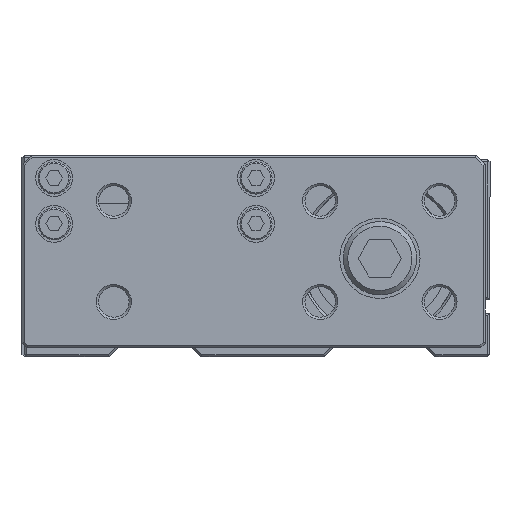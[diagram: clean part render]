
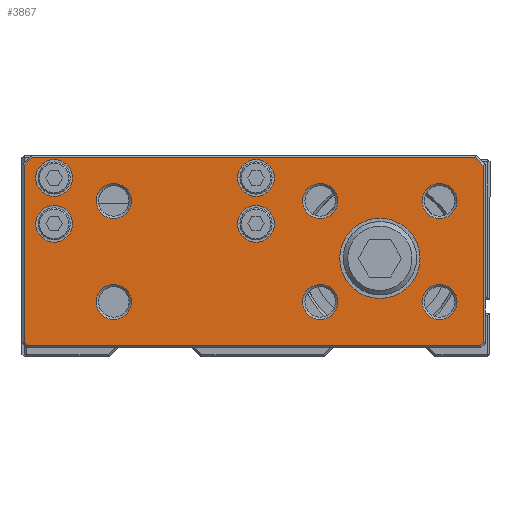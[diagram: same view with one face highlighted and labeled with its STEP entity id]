
A CAD part, front view. The second image highlights one B-rep face of the part: STEP entity #3867.
In plain terms, the highlighted planar face has unit normal (0, -1, 0).
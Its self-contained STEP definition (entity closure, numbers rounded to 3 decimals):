
#3671=CARTESIAN_POINT('',(-9.176,-17.8,12.5));
#3672=VERTEX_POINT('',#3671);
#3673=CARTESIAN_POINT('',(-13.,-17.8,12.5));
#3674=DIRECTION('',(0.0,-1.0,0.0));
#3675=DIRECTION('',(-1.0,0.0,0.0));
#3676=AXIS2_PLACEMENT_3D('',#3673,#3674,#3675);
#3677=CIRCLE('',#3676,3.824);
#3678=EDGE_CURVE('',#3672,#3672,#3677,.T.);
#3683=CARTESIAN_POINT('',(-78.0,-17.8,22.5));
#3684=DIRECTION('',(0.0,-1.0,0.0));
#3685=DIRECTION('',(0.0,0.0,-1.0));
#3686=AXIS2_PLACEMENT_3D('',#3683,#3684,#3685);
#3687=PLANE('',#3686);
#3688=CARTESIAN_POINT('',(22.5,-17.8,20.293));
#3689=VERTEX_POINT('',#3688);
#3690=CARTESIAN_POINT('',(22.5,-17.8,-18.293));
#3691=VERTEX_POINT('',#3690);
#3692=CARTESIAN_POINT('',(22.5,-17.8,20.293));
#3693=DIRECTION('',(0.0,0.0,-1.0));
#3694=VECTOR('',#3693,38.586);
#3695=LINE('',#3692,#3694);
#3696=EDGE_CURVE('',#3689,#3691,#3695,.T.);
#3697=ORIENTED_EDGE('',*,*,#3696,.F.);
#3698=CARTESIAN_POINT('',(20.793,-17.8,22.0));
#3699=VERTEX_POINT('',#3698);
#3700=CARTESIAN_POINT('',(20.793,-17.8,22.0));
#3701=DIRECTION('',(0.707,0.0,-0.707));
#3702=VECTOR('',#3701,2.414);
#3703=LINE('',#3700,#3702);
#3704=EDGE_CURVE('',#3699,#3689,#3703,.T.);
#3705=ORIENTED_EDGE('',*,*,#3704,.F.);
#3706=CARTESIAN_POINT('',(-75.793,-17.8,22.0));
#3707=VERTEX_POINT('',#3706);
#3708=CARTESIAN_POINT('',(-75.793,-17.8,22.0));
#3709=DIRECTION('',(1.0,0.0,0.0));
#3710=VECTOR('',#3709,96.586);
#3711=LINE('',#3708,#3710);
#3712=EDGE_CURVE('',#3707,#3699,#3711,.T.);
#3713=ORIENTED_EDGE('',*,*,#3712,.F.);
#3714=CARTESIAN_POINT('',(-77.5,-17.8,20.293));
#3715=VERTEX_POINT('',#3714);
#3716=CARTESIAN_POINT('',(-77.5,-17.8,20.293));
#3717=DIRECTION('',(0.707,0.0,0.707));
#3718=VECTOR('',#3717,2.414);
#3719=LINE('',#3716,#3718);
#3720=EDGE_CURVE('',#3715,#3707,#3719,.T.);
#3721=ORIENTED_EDGE('',*,*,#3720,.F.);
#3722=CARTESIAN_POINT('',(-77.5,-17.8,-18.293));
#3723=VERTEX_POINT('',#3722);
#3724=CARTESIAN_POINT('',(-77.5,-17.8,-18.293));
#3725=DIRECTION('',(0.0,0.0,1.0));
#3726=VECTOR('',#3725,38.586);
#3727=LINE('',#3724,#3726);
#3728=EDGE_CURVE('',#3723,#3715,#3727,.T.);
#3729=ORIENTED_EDGE('',*,*,#3728,.F.);
#3730=CARTESIAN_POINT('',(-76.793,-17.8,-19.));
#3731=VERTEX_POINT('',#3730);
#3732=CARTESIAN_POINT('',(-76.793,-17.8,-19.));
#3733=DIRECTION('',(-0.707,0.0,0.707));
#3734=VECTOR('',#3733,1.);
#3735=LINE('',#3732,#3734);
#3736=EDGE_CURVE('',#3731,#3723,#3735,.T.);
#3737=ORIENTED_EDGE('',*,*,#3736,.F.);
#3738=CARTESIAN_POINT('',(21.793,-17.8,-19.));
#3739=VERTEX_POINT('',#3738);
#3740=CARTESIAN_POINT('',(21.793,-17.8,-19.));
#3741=DIRECTION('',(-1.0,0.0,0.0));
#3742=VECTOR('',#3741,98.586);
#3743=LINE('',#3740,#3742);
#3744=EDGE_CURVE('',#3739,#3731,#3743,.T.);
#3745=ORIENTED_EDGE('',*,*,#3744,.F.);
#3746=CARTESIAN_POINT('',(22.5,-17.8,-18.293));
#3747=DIRECTION('',(-0.707,0.0,-0.707));
#3748=VECTOR('',#3747,1.);
#3749=LINE('',#3746,#3748);
#3750=EDGE_CURVE('',#3691,#3739,#3749,.T.);
#3751=ORIENTED_EDGE('',*,*,#3750,.F.);
#3752=EDGE_LOOP('',(#3697,#3705,#3713,#3721,#3729,#3737,#3745,#3751));
#3753=FACE_OUTER_BOUND('',#3752,.T.);
#3754=CARTESIAN_POINT('',(-9.176,-17.8,-9.5));
#3755=VERTEX_POINT('',#3754);
#3756=CARTESIAN_POINT('',(-13.,-17.8,-9.5));
#3757=DIRECTION('',(0.0,-1.0,0.0));
#3758=DIRECTION('',(-1.0,0.0,0.0));
#3759=AXIS2_PLACEMENT_3D('',#3756,#3757,#3758);
#3760=CIRCLE('',#3759,3.824);
#3761=EDGE_CURVE('',#3755,#3755,#3760,.T.);
#3762=ORIENTED_EDGE('',*,*,#3761,.F.);
#3763=EDGE_LOOP('',(#3762));
#3764=FACE_BOUND('',#3763,.T.);
#3765=CARTESIAN_POINT('',(16.824,-17.8,-9.5));
#3766=VERTEX_POINT('',#3765);
#3767=CARTESIAN_POINT('',(13.,-17.8,-9.5));
#3768=DIRECTION('',(0.0,-1.0,0.0));
#3769=DIRECTION('',(-1.0,0.0,0.0));
#3770=AXIS2_PLACEMENT_3D('',#3767,#3768,#3769);
#3771=CIRCLE('',#3770,3.824);
#3772=EDGE_CURVE('',#3766,#3766,#3771,.T.);
#3773=ORIENTED_EDGE('',*,*,#3772,.F.);
#3774=EDGE_LOOP('',(#3773));
#3775=FACE_BOUND('',#3774,.T.);
#3776=CARTESIAN_POINT('',(16.824,-17.8,12.5));
#3777=VERTEX_POINT('',#3776);
#3778=CARTESIAN_POINT('',(13.,-17.8,12.5));
#3779=DIRECTION('',(0.0,-1.0,0.0));
#3780=DIRECTION('',(-1.0,0.0,0.0));
#3781=AXIS2_PLACEMENT_3D('',#3778,#3779,#3780);
#3782=CIRCLE('',#3781,3.824);
#3783=EDGE_CURVE('',#3777,#3777,#3782,.T.);
#3784=ORIENTED_EDGE('',*,*,#3783,.F.);
#3785=EDGE_LOOP('',(#3784));
#3786=FACE_BOUND('',#3785,.T.);
#3787=CARTESIAN_POINT('',(8.75,-17.8,0.0));
#3788=VERTEX_POINT('',#3787);
#3789=CARTESIAN_POINT('',(0.,-17.8,0.0));
#3790=DIRECTION('',(0.0,1.0,0.0));
#3791=DIRECTION('',(1.0,0.0,0.0));
#3792=AXIS2_PLACEMENT_3D('',#3789,#3790,#3791);
#3793=CIRCLE('',#3792,8.75);
#3794=EDGE_CURVE('',#3788,#3788,#3793,.T.);
#3795=ORIENTED_EDGE('',*,*,#3794,.T.);
#3796=EDGE_LOOP('',(#3795));
#3797=FACE_BOUND('',#3796,.T.);
#3798=CARTESIAN_POINT('',(-67.0,-17.8,17.5));
#3799=VERTEX_POINT('',#3798);
#3800=CARTESIAN_POINT('',(-71.0,-17.8,17.5));
#3801=DIRECTION('',(0.0,1.0,0.0));
#3802=DIRECTION('',(1.0,0.0,0.0));
#3803=AXIS2_PLACEMENT_3D('',#3800,#3801,#3802);
#3804=CIRCLE('',#3803,4.0);
#3805=EDGE_CURVE('',#3799,#3799,#3804,.T.);
#3806=ORIENTED_EDGE('',*,*,#3805,.T.);
#3807=EDGE_LOOP('',(#3806));
#3808=FACE_BOUND('',#3807,.T.);
#3809=CARTESIAN_POINT('',(-67.0,-17.8,7.5));
#3810=VERTEX_POINT('',#3809);
#3811=CARTESIAN_POINT('',(-71.0,-17.8,7.5));
#3812=DIRECTION('',(0.0,1.0,0.0));
#3813=DIRECTION('',(1.0,0.0,0.0));
#3814=AXIS2_PLACEMENT_3D('',#3811,#3812,#3813);
#3815=CIRCLE('',#3814,4.0);
#3816=EDGE_CURVE('',#3810,#3810,#3815,.T.);
#3817=ORIENTED_EDGE('',*,*,#3816,.T.);
#3818=EDGE_LOOP('',(#3817));
#3819=FACE_BOUND('',#3818,.T.);
#3820=CARTESIAN_POINT('',(-23.,-17.8,17.5));
#3821=VERTEX_POINT('',#3820);
#3822=CARTESIAN_POINT('',(-27.0,-17.8,17.5));
#3823=DIRECTION('',(0.0,1.0,0.0));
#3824=DIRECTION('',(1.0,0.0,0.0));
#3825=AXIS2_PLACEMENT_3D('',#3822,#3823,#3824);
#3826=CIRCLE('',#3825,4.0);
#3827=EDGE_CURVE('',#3821,#3821,#3826,.T.);
#3828=ORIENTED_EDGE('',*,*,#3827,.T.);
#3829=EDGE_LOOP('',(#3828));
#3830=FACE_BOUND('',#3829,.T.);
#3831=CARTESIAN_POINT('',(-23.,-17.8,7.5));
#3832=VERTEX_POINT('',#3831);
#3833=CARTESIAN_POINT('',(-27.0,-17.8,7.5));
#3834=DIRECTION('',(0.0,1.0,0.0));
#3835=DIRECTION('',(1.0,0.0,0.0));
#3836=AXIS2_PLACEMENT_3D('',#3833,#3834,#3835);
#3837=CIRCLE('',#3836,4.0);
#3838=EDGE_CURVE('',#3832,#3832,#3837,.T.);
#3839=ORIENTED_EDGE('',*,*,#3838,.T.);
#3840=EDGE_LOOP('',(#3839));
#3841=FACE_BOUND('',#3840,.T.);
#3842=CARTESIAN_POINT('',(-54.177,-17.8,-9.5));
#3843=VERTEX_POINT('',#3842);
#3844=CARTESIAN_POINT('',(-58.0,-17.8,-9.5));
#3845=DIRECTION('',(0.0,-1.0,0.0));
#3846=DIRECTION('',(-1.0,0.0,0.0));
#3847=AXIS2_PLACEMENT_3D('',#3844,#3845,#3846);
#3848=CIRCLE('',#3847,3.823);
#3849=EDGE_CURVE('',#3843,#3843,#3848,.T.);
#3850=ORIENTED_EDGE('',*,*,#3849,.F.);
#3851=EDGE_LOOP('',(#3850));
#3852=FACE_BOUND('',#3851,.T.);
#3853=CARTESIAN_POINT('',(-54.177,-17.8,12.5));
#3854=VERTEX_POINT('',#3853);
#3855=CARTESIAN_POINT('',(-58.,-17.8,12.5));
#3856=DIRECTION('',(0.0,-1.0,0.0));
#3857=DIRECTION('',(-1.0,0.0,0.0));
#3858=AXIS2_PLACEMENT_3D('',#3855,#3856,#3857);
#3859=CIRCLE('',#3858,3.823);
#3860=EDGE_CURVE('',#3854,#3854,#3859,.T.);
#3861=ORIENTED_EDGE('',*,*,#3860,.F.);
#3862=EDGE_LOOP('',(#3861));
#3863=FACE_BOUND('',#3862,.T.);
#3864=ORIENTED_EDGE('',*,*,#3678,.F.);
#3865=EDGE_LOOP('',(#3864));
#3866=FACE_BOUND('',#3865,.T.);
#3867=ADVANCED_FACE('',(#3753,#3764,#3775,#3786,#3797,#3808,#3819,#3830,#3841,#3852,#3863,#3866),#3687,.T.);
